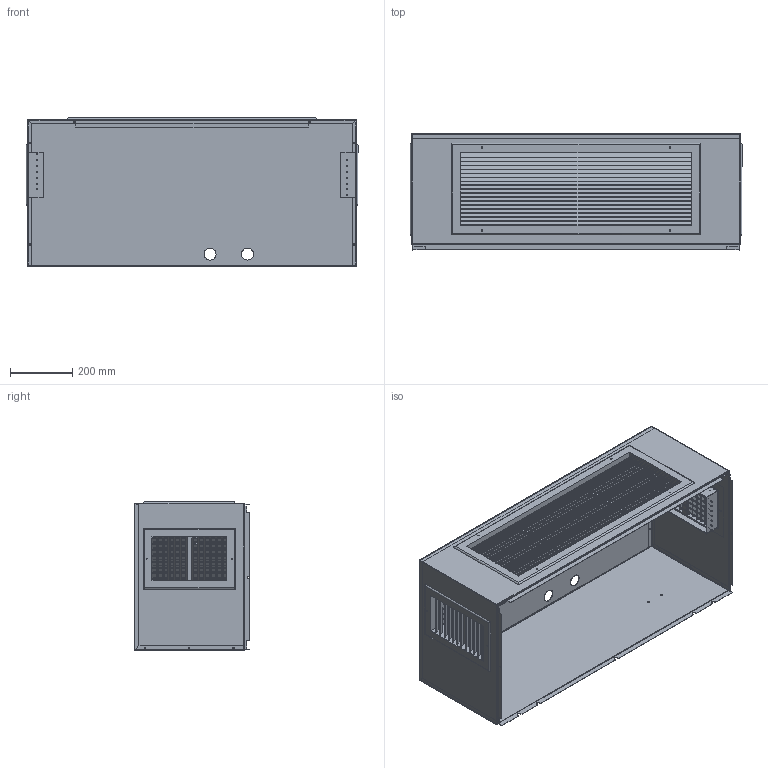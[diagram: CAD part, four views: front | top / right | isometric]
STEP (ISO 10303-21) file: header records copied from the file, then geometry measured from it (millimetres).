
FILE_DESCRIPTION (( 'STEP AP214' ), '1' );
FILE_NAME ('QPBS42-X.STEP', '2016-07-14T18:32:27', ( 'BMC' ), ( 'Bard Manufacturing Co., Inc.' ), 'SwSTEP 2.0', 'SolidWorks 2016', '' );
FILE_SCHEMA (( 'AUTOMOTIVE_DESIGN' ));
Length unit declared in the file: inch
Products named in the file (7): QPBS42-X; 114-130; 108-139; 7051-046; grille frame; 7051-034 louver; grille1
Assembly tree (24 placements, depth 3):
  QPBS42-X
    114-130
    108-139
    7051-046  x2
    grille1
      grille frame
      7051-034 louver  x18
Bounding box: 1069.97 x 373.72 x 478.63 mm (x, y, z)
Surface area: 4518232.7 mm2 (no closed solid volume)
Topology: 0 solids, 61 shells, 1088 faces, 3301 edges, 2286 vertices
Faces by surface type: plane 674, cylinder 394, bspline 20
Entity records: 28616 total; most frequent: CARTESIAN_POINT 10000, DIRECTION 3764, ORIENTED_EDGE 3602, EDGE_CURVE 1984, VERTEX_POINT 1362, AXIS2_PLACEMENT_3D 1326, VECTOR 1112, LINE 1112
